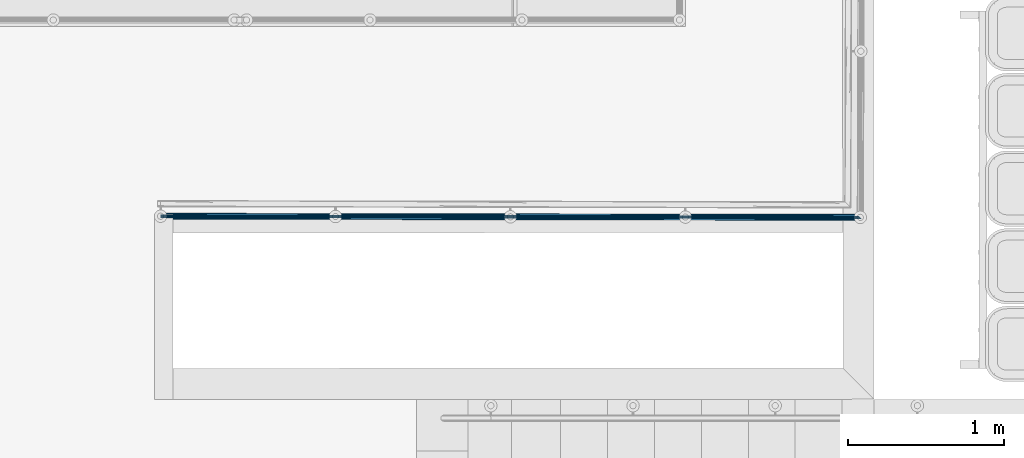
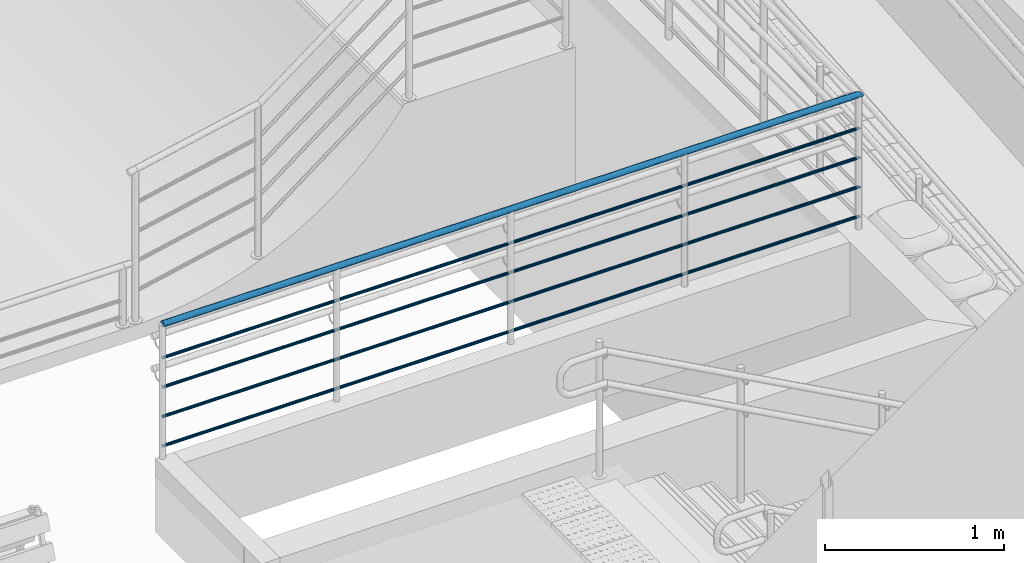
# One storey, part 40 of 237: 6 building element parts, 1 element without a shape of its own.
"""IFC2X3 building model written with IfcOpenShell, lengths in millimetres."""

import ifcopenshell
import ifcopenshell.guid

model = None  # the IFC model being written
_history = None  # IfcOwnerHistory: only IFC2X3 demands one
_inside = {}  # id of a spatial element -> (the spatial element, [elements in it])
_under = {}  # id of a project, library or spatial element -> (it, [spatial elements below it])
_declared = {}  # id of a project -> (the project, [libraries it declares])
_typed = {}  # id of a type object -> (the type object, [elements of that type])
_made_of = {}  # id of a material, layer set ... -> (it, [elements and type objects made of it])


def new_model(schema):
    """Start an empty IFC model of exactly this schema.

    Asked for "IFC4X3", IfcOpenShell would pick the latest addendum, in which some entities
    have other attributes; the version numbers below select the first issue.
    IFC2X3 requires an IfcOwnerHistory on every rooted entity: one is made here for all.
    """
    global model, _history
    if schema == "IFC4X3":
        model = ifcopenshell.file(schema_version=(4, 3, 0, 0))
    else:
        model = ifcopenshell.file(schema=schema)
    _inside.clear()
    _under.clear()
    _declared.clear()
    _typed.clear()
    _made_of.clear()
    _history = None
    if model.schema == "IFC2X3":
        org = make("IfcOrganization", Name="unknown")
        user = make(
            "IfcPersonAndOrganization",
            ThePerson=make("IfcPerson", FamilyName="unknown"),
            TheOrganization=org,
        )
        app = make(
            "IfcApplication",
            ApplicationDeveloper=org,
            Version="unknown",
            ApplicationFullName="unknown",
            ApplicationIdentifier="unknown",
        )
        _history = make(
            "IfcOwnerHistory",
            OwningUser=user,
            OwningApplication=app,
            ChangeAction="ADDED",
            CreationDate=0,
        )
    return model


def make(cls, **values):
    """One entity of the class cls with the attributes given. An attribute that is None is left unset."""
    return model.create_entity(
        cls, **{name: value for name, value in values.items() if value is not None}
    )


def entity(cls, *values):
    """Any entity or typed value of the class cls, its attributes in the order of the schema. None: left unset."""
    e = model.create_entity(cls)
    for i, value in enumerate(values):
        if value is not None:
            e[i] = value
    return e


def rooted(cls, **values):
    """An entity with a GlobalId (a new one), such as an element, a storey or a relation."""
    return make(cls, GlobalId=ifcopenshell.guid.new(), OwnerHistory=_history, **values)


def si_unit(unit_type, name, prefix=None):
    """IfcSIUnit, for example si_unit("LENGTHUNIT", "METRE", prefix="MILLI")."""
    return make("IfcSIUnit", UnitType=unit_type, Prefix=prefix, Name=name)


def converted_unit(unit_type, name, factor, base, dimensions=None, offset=None):
    """IfcConversionBasedUnit, such as the inch: factor (a typed value) times the base unit."""
    return make(
        "IfcConversionBasedUnit"
        if offset is None
        else "IfcConversionBasedUnitWithOffset",
        ConversionOffset=offset,
        Dimensions=None
        if dimensions is None
        else entity("IfcDimensionalExponents", *dimensions),
        UnitType=unit_type,
        Name=name,
        ConversionFactor=make(
            "IfcMeasureWithUnit", ValueComponent=factor, UnitComponent=base
        ),
    )


def derived_unit(unit_type, elements):
    """IfcDerivedUnit: a product of units, each with its exponent."""
    return make(
        "IfcDerivedUnit",
        Elements=[
            make("IfcDerivedUnitElement", Unit=unit, Exponent=power)
            for unit, power in elements
        ],
        UnitType=unit_type,
    )


def money_unit(currency):
    """IfcMonetaryUnit."""
    return make("IfcMonetaryUnit", Currency=currency)


def assignment(units):
    """IfcUnitAssignment: the units of a project."""
    return None if units is None else make("IfcUnitAssignment", Units=units)


def point(xyz):
    """IfcCartesianPoint."""
    return None if xyz is None else make("IfcCartesianPoint", Coordinates=xyz)


def direction(xyz):
    """IfcDirection."""
    return None if xyz is None else make("IfcDirection", DirectionRatios=xyz)


def frame(location, z_axis=None, x_axis=None):
    """IfcAxis2Placement3D, a coordinate frame: its origin and axes. An axis left out is left unset."""
    return make(
        "IfcAxis2Placement3D",
        Location=point(location),
        Axis=direction(z_axis),
        RefDirection=direction(x_axis),
    )


def origin_with_axes():
    """The frame at (0, 0, 0) with the z axis (0, 0, 1) and the x axis (1, 0, 0) written out."""
    return frame((0.0, 0.0, 0.0), z_axis=(0.0, 0.0, 1.0), x_axis=(1.0, 0.0, 0.0))


def place(relative_to, where):
    """IfcLocalPlacement: puts the frame where relative to a parent placement (None: the world)."""
    return make(
        "IfcLocalPlacement", PlacementRelTo=relative_to, RelativePlacement=where
    )


def context(
    kind, dimensions, precision=None, world=None, true_north=None, identifier=None
):
    """IfcGeometricRepresentationContext, for example the 3D "Model" context."""
    return make(
        "IfcGeometricRepresentationContext",
        ContextIdentifier=identifier,
        ContextType=kind,
        CoordinateSpaceDimension=dimensions,
        Precision=precision,
        WorldCoordinateSystem=world,
        TrueNorth=true_north,
    )


def subcontext(parent, identifier, kind, view, scale=None):
    """IfcGeometricRepresentationSubContext, for example "Body" below "Model"."""
    return make(
        "IfcGeometricRepresentationSubContext",
        ContextIdentifier=identifier,
        ContextType=kind,
        ParentContext=parent,
        TargetScale=scale,
        TargetView=view,
    )


def project(units=None, contexts=None):
    """IfcProject with its units and contexts."""
    return rooted(
        "IfcProject",
        Name="project",
        RepresentationContexts=contexts,
        UnitsInContext=assignment(units),
    )


def spatial(cls, under=None, at=None, **own):
    """A site, building, storey or space (cls), placed at a placement, below another one or the project."""
    s = rooted(cls, ObjectPlacement=at, **own)
    if under is not None:
        _under.setdefault(under.id(), (under, []))[1].append(s)
    return s


def faces_of(points, faces, orient=None, outer=None):
    """IfcFace entities. A face is a list of loops; a loop is a list of indices into points, from 0.

    orient and outer hold one flag for each loop. By default every Orientation is true, the
    first loop of a face is its IfcFaceOuterBound and the others are IfcFaceBound.
    """
    made = []
    for i, loops in enumerate(faces):
        bounds = []
        for j, loop in enumerate(loops):
            is_outer = j == 0 if outer is None else outer[i][j]
            bounds.append(
                make(
                    "IfcFaceOuterBound" if is_outer else "IfcFaceBound",
                    Bound=make("IfcPolyLoop", Polygon=[points[k] for k in loop]),
                    Orientation=True if orient is None else orient[i][j],
                )
            )
        made.append(make("IfcFace", Bounds=bounds))
    return made


def faceted_brep(points, faces, orient=None, outer=None, voids=None):
    """IfcFacetedBrep: a solid bounded by flat faces; with voids (closed shells), ...WithVoids."""
    shared = [point(p) for p in points]
    hull = make("IfcClosedShell", CfsFaces=faces_of(shared, faces, orient, outer))
    if voids is None:
        return make("IfcFacetedBrep", Outer=hull)
    return make(
        "IfcFacetedBrepWithVoids",
        Outer=hull,
        Voids=[
            make(cls, CfsFaces=faces_of(shared, fs, o, b)) for cls, fs, o, b in voids
        ],
    )


def shape(context_of_items, identifier, shape_type, items):
    """IfcShapeRepresentation: the items that make up one representation, for example the "Body"."""
    return make(
        "IfcShapeRepresentation",
        ContextOfItems=context_of_items,
        RepresentationIdentifier=identifier,
        RepresentationType=shape_type,
        Items=items,
    )


def material(Name=None, Category=None):
    """IfcMaterial."""
    return make("IfcMaterial", Name=Name, Category=Category)


def made_of(thing, what):
    """Note that an element or type object is made of a material, layer set ...; save() writes the relation."""
    if what is not None:
        _made_of.setdefault(what.id(), (what, []))[1].append(thing)
    return thing


def type_object(cls, material=None, **own):
    """A type object (cls), such as IfcWallType, which elements share."""
    return made_of(rooted(cls, **own), material)


def element(
    cls,
    number,
    at=None,
    inside=None,
    cuts=None,
    type_object=None,
    material=None,
    context=None,
    identifier="Body",
    shape_type=None,
    held_by="IfcProductDefinitionShape",
    body=None,
    shapes=None,
    **own,
):
    """One element of the class cls, such as IfcWall. Its Tag is "e" and its number.

    at: its placement. inside: the storey or other place that contains it. cuts: it is an
    opening in that element (IfcRelVoidsElement). A single representation is given by context,
    identifier, shape_type and body (its items); several are given by shapes. held_by: the class
    of the entity that holds the representations. save() writes the other relations.
    """
    e = rooted(cls, Tag="e%d" % number, ObjectPlacement=at, **own)
    if body is not None:
        shapes = [shape(context, identifier, shape_type, body)]
    if shapes is not None:
        e.Representation = make(held_by, Representations=shapes)
    if inside is not None:
        _inside.setdefault(inside.id(), (inside, []))[1].append(e)
    if cuts is not None:
        rooted(
            "IfcRelVoidsElement", RelatingBuildingElement=cuts, RelatedOpeningElement=e
        )
    if type_object is not None:
        _typed.setdefault(type_object.id(), (type_object, []))[1].append(e)
    return made_of(e, material)


def aggregate(whole, parts):
    """IfcRelAggregates: a whole, such as a stair, and the parts it consists of."""
    return rooted("IfcRelAggregates", RelatingObject=whole, RelatedObjects=parts)


def save(model, path):
    """Write the relations noted so far, then the file.

    IfcRelAggregates (storeys below a building ...), IfcRelContainedInSpatialStructure (elements
    in a storey), IfcRelDefinesByType, IfcRelAssociatesMaterial and IfcRelDeclares: one each for
    every whole, place, type object, material and project.
    """
    for whole, parts in _under.values():
        aggregate(whole, parts)
    for where, things in _inside.values():
        rooted(
            "IfcRelContainedInSpatialStructure",
            RelatedElements=things,
            RelatingStructure=where,
        )
    for kind, things in _typed.values():
        rooted("IfcRelDefinesByType", RelatedObjects=things, RelatingType=kind)
    for what, things in _made_of.values():
        rooted("IfcRelAssociatesMaterial", RelatedObjects=things, RelatingMaterial=what)
    for by, libraries in _declared.values():
        rooted("IfcRelDeclares", RelatingContext=by, RelatedDefinitions=libraries)
    model.write(path)


model = new_model("IFC2X3")

# Units and contexts
model_context = context("Model", 3, precision=0.01, world=origin_with_axes(), true_north=direction((0.0, 1.0)))
body_context = subcontext(model_context, "Body", "Model", "MODEL_VIEW")
ifc_project = project(units=[si_unit("LENGTHUNIT", "METRE", prefix="MILLI"), si_unit("AREAUNIT", "SQUARE_METRE"), si_unit("VOLUMEUNIT", "CUBIC_METRE"), converted_unit("PLANEANGLEUNIT", "DEGREE", entity("IfcPlaneAngleMeasure", 0.0174532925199), si_unit("PLANEANGLEUNIT", "RADIAN"), dimensions=[0, 0, 0, 0, 0, 0, 0]), money_unit("USD"), converted_unit("TIMEUNIT", "Year", entity("IfcTimeMeasure", 31556926.0), si_unit("TIMEUNIT", "SECOND"), dimensions=[0, 0, 1, 0, 0, 0, 0]), si_unit("MASSUNIT", "GRAM", prefix="KILO"), si_unit("THERMODYNAMICTEMPERATUREUNIT", "DEGREE_CELSIUS"), si_unit("LUMINOUSINTENSITYUNIT", "LUMEN"), si_unit("ENERGYUNIT", "JOULE", prefix="MEGA"), derived_unit("THERMALCONDUCTANCEUNIT", [(si_unit("POWERUNIT", "WATT"), 1), (si_unit("LENGTHUNIT", "METRE"), -1), (si_unit("THERMODYNAMICTEMPERATUREUNIT", "KELVIN"), -1)]), derived_unit("SPECIFICHEATCAPACITYUNIT", [(si_unit("ENERGYUNIT", "JOULE"), 1), (si_unit("MASSUNIT", "GRAM", prefix="KILO"), -1), (si_unit("THERMODYNAMICTEMPERATUREUNIT", "KELVIN"), -1)]), derived_unit("MASSDENSITYUNIT", [(si_unit("MASSUNIT", "GRAM", prefix="KILO"), 1), (si_unit("VOLUMEUNIT", "CUBIC_METRE"), -1)])], contexts=[model_context])

# Site, building, storey
site_placement = place(None, origin_with_axes())
site = spatial("IfcSite", under=ifc_project, at=site_placement, Name="Local", CompositionType="ELEMENT")
building_placement = place(site_placement, origin_with_axes())
building = spatial("IfcBuilding", under=site, at=building_placement, Name="Construção", CompositionType="ELEMENT")
storey_placement = place(building_placement, origin_with_axes())
storey = spatial("IfcBuildingStorey", under=building, at=storey_placement, Name="Pavimento Térreo", CompositionType="ELEMENT", Elevation=0.0)

# Railing, building element parts
railing_type = type_object("IfcRailingType", Name="Tipo de Guarda-Corpo", PredefinedType="NOTDEFINED")
railing_placement = place(storey_placement, frame((70326.6870103, 28675.2458388, -1357.10819655), z_axis=(0.0, 0.0, 1.0), x_axis=(1.0, 0.0, 0.0)))
railing = element("IfcRailing", 1, at=railing_placement, inside=storey, type_object=railing_type, Name="Guarda-Corpo - 004", PredefinedType="NOTDEFINED")
ifc_material = material(Name="Aço - Inoxidável")
building_element_part_1_placement = place(railing_placement, origin_with_axes())
building_element_part_1 = element("IfcBuildingElementPart", 2, at=building_element_part_1_placement, material=ifc_material, Name="Aço - Inoxidável", context=body_context, shape_type="Brep", body=[
    faceted_brep([(-9224.29842374, -1825.53725213, 1030.0), (-9224.29890889, -1825.84109668, 1033.47296355), (-4766.9802013, -1832.95806863, 1033.47296355), (-4767.28313638, -1832.65373961, 1030.0), (-9224.29890889, -1825.84109668, 1026.52703645), (-9224.30034958, -1826.74339818, 1023.15959713), (-9224.30270206, -1828.21674064, 1020.0), (-9224.30589484, -1830.2163573, 1017.14424781), (-9224.3098309, -1832.68149083, 1014.67911114), (-9224.31439065, -1835.53723938, 1012.67949192), (-9224.31943556, -1838.69683249, 1011.20614758), (-9224.32481232, -1842.06426751, 1010.30384494), (-9224.33035757, -1845.53722664, 1010.0), (-9224.33590282, -1849.01018576, 1010.30384494), (-9224.34127958, -1852.37762078, 1011.20614758), (-9224.34632448, -1855.53721389, 1012.67949192), (-9224.35088424, -1858.39296244, 1014.67911114), (-9224.3548203, -1860.85809597, 1017.14424781), (-9224.35801308, -1862.85771263, 1020.0), (-9224.36036555, -1864.33105509, 1023.15959713), (-9224.36180625, -1865.23335659, 1026.52703645), (-9224.3622914, -1865.53720114, 1030.0), (-9224.36180625, -1865.23335659, 1033.47296355), (-9224.36036555, -1864.33105509, 1036.84040287), (-9224.35801308, -1862.85771263, 1040.0), (-9224.3548203, -1860.85809597, 1042.85575219), (-9224.35088424, -1858.39296244, 1045.32088886), (-9224.34632448, -1855.53721389, 1047.32050808), (-9224.34127958, -1852.37762078, 1048.79385242), (-9224.33590282, -1849.01018576, 1049.69615506), (-9224.33035757, -1845.53722664, 1050.0), (-9224.32481232, -1842.06426751, 1049.69615506), (-9224.31943556, -1838.69683249, 1048.79385242), (-9224.31439065, -1835.53723938, 1047.32050808), (-9224.3098309, -1832.68149083, 1045.32088886), (-9224.30589484, -1830.2163573, 1042.85575219), (-9224.30270206, -1828.21674064, 1040.0), (-9224.30034958, -1826.74339818, 1036.84040287), (-4766.0806006, -1833.86180881, 1036.84040287), (-4764.61166818, -1835.33750046, 1040.0), (-4762.61803682, -1837.34030544, 1042.85575219), (-4760.16028199, -1839.80936953, 1045.32088886), (-4757.31308134, -1842.66967148, 1047.32050808), (-4754.16294561, -1845.83430244, 1048.79385242), (-4750.80559008, -1849.20710671, 1049.69615506), (-4747.3430263, -1852.68560335, 1050.0), (-4743.88046252, -1856.16409998, 1049.69615506), (-4740.523107, -1859.53690425, 1048.79385242), (-4737.37297126, -1862.70153521, 1047.32050808), (-4734.52577061, -1865.56183716, 1045.32088886), (-4732.06801578, -1868.03090125, 1042.85575219), (-4730.07438442, -1870.03370623, 1040.0), (-4728.60545201, -1871.50939788, 1036.84040287), (-4727.7058513, -1872.41313806, 1033.47296355), (-4727.40291623, -1872.71746708, 1030.0), (-4727.7058513, -1872.41313806, 1026.52703645), (-4728.60545201, -1871.50939788, 1023.15959713), (-4730.07438442, -1870.03370623, 1020.0), (-4732.06801578, -1868.03090125, 1017.14424781), (-4734.52577061, -1865.56183716, 1014.67911114), (-4737.37297126, -1862.70153521, 1012.67949192), (-4740.523107, -1859.53690425, 1011.20614758), (-4743.88046252, -1856.16409998, 1010.30384494), (-4747.3430263, -1852.68560335, 1010.0), (-4750.80559008, -1849.20710671, 1010.30384494), (-4754.16294561, -1845.83430244, 1011.20614758), (-4757.31308134, -1842.66967148, 1012.67949192), (-4760.16028199, -1839.80936953, 1014.67911114), (-4762.61803682, -1837.34030544, 1017.14424781), (-4764.61166818, -1835.33750046, 1020.0), (-4766.0806006, -1833.86180881, 1023.15959713), (-4766.9802013, -1832.95806863, 1026.52703645)], [[[0, 1, 2, 3]], [[0, 4, 5, 6, 7, 8, 9, 10, 11, 12, 13, 14, 15, 16, 17, 18, 19, 20, 21, 22, 23, 24, 25, 26, 27, 28, 29, 30, 31, 32, 33, 34, 35, 36, 37, 1]], [[1, 37, 38, 2]], [[3, 2, 38, 39, 40, 41, 42, 43, 44, 45, 46, 47, 48, 49, 50, 51, 52, 53, 54, 55, 56, 57, 58, 59, 60, 61, 62, 63, 64, 65, 66, 67, 68, 69, 70, 71]], [[4, 0, 3, 71]], [[5, 4, 71, 70]], [[6, 5, 70, 69]], [[7, 6, 69, 68]], [[8, 7, 68, 67]], [[9, 8, 67, 66]], [[10, 9, 66, 65]], [[11, 10, 65, 64]], [[12, 11, 64, 63]], [[13, 12, 63, 62]], [[14, 13, 62, 61]], [[15, 14, 61, 60]], [[16, 15, 60, 59]], [[17, 16, 59, 58]], [[18, 17, 58, 57]], [[19, 18, 57, 56]], [[20, 19, 56, 55]], [[21, 20, 55, 54]], [[22, 21, 54, 53]], [[23, 22, 53, 52]], [[24, 23, 52, 51]], [[25, 24, 51, 50]], [[26, 25, 50, 49]], [[27, 26, 49, 48]], [[28, 27, 48, 47]], [[29, 28, 47, 46]], [[30, 29, 46, 45]], [[31, 30, 45, 44]], [[32, 31, 44, 43]], [[33, 32, 43, 42]], [[34, 33, 42, 41]], [[35, 34, 41, 40]], [[36, 35, 40, 39]], [[37, 36, 39, 38]]]),
])
building_element_part_2_placement = place(railing_placement, origin_with_axes())
building_element_part_2 = element("IfcBuildingElementPart", 3, at=building_element_part_2_placement, material=ifc_material, Name="Aço - Inoxidável", context=body_context, shape_type="Brep", body=[
    faceted_brep([(-9224.31439065, -1835.53723938, 200.0), (-9224.31463323, -1835.68916166, 201.736481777), (-4757.1616138, -1842.82183599, 201.736481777), (-4757.31308134, -1842.66967148, 200.0), (-9224.31463323, -1835.68916166, 198.263518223), (-9224.31535358, -1836.14031241, 196.579798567), (-9224.31652982, -1836.87698364, 195.0), (-9224.3181262, -1837.87679197, 193.572123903), (-9224.32009423, -1839.10935873, 192.339555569), (-9224.32237411, -1840.53723301, 191.339745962), (-9224.32489656, -1842.11702956, 190.603073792), (-9224.32758494, -1843.80074707, 190.15192247), (-9224.33035757, -1845.53722664, 190.0), (-9224.33313019, -1847.2737062, 190.15192247), (-9224.33581858, -1848.95742371, 190.603073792), (-9224.33834103, -1850.53722026, 191.339745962), (-9224.3406209, -1851.96509454, 192.339555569), (-9224.34258894, -1853.1976613, 193.572123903), (-9224.34418532, -1854.19746963, 195.0), (-9224.34536156, -1854.93414087, 196.579798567), (-9224.34608191, -1855.38529161, 198.263518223), (-9224.34632448, -1855.53721389, 200.0), (-9224.34608191, -1855.38529161, 201.736481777), (-9224.34536156, -1854.93414087, 203.420201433), (-9224.34418532, -1854.19746963, 205.0), (-9224.34258894, -1853.1976613, 206.427876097), (-9224.3406209, -1851.96509454, 207.660444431), (-9224.33834103, -1850.53722026, 208.660254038), (-9224.33581858, -1848.95742371, 209.396926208), (-9224.33313019, -1847.2737062, 209.84807753), (-9224.33035757, -1845.53722664, 210.0), (-9224.32758494, -1843.80074707, 209.84807753), (-9224.32489656, -1842.11702956, 209.396926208), (-9224.32237411, -1840.53723301, 208.660254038), (-9224.32009423, -1839.10935873, 207.660444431), (-9224.3181262, -1837.87679197, 206.427876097), (-9224.31652982, -1836.87698364, 205.0), (-9224.31535358, -1836.14031241, 203.420201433), (-4756.71181345, -1843.27370608, 203.420201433), (-4755.97734724, -1844.0115519, 205.0), (-4754.98053156, -1845.01295439, 206.427876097), (-4753.75165415, -1846.24748644, 207.660444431), (-4752.32805382, -1847.67763741, 208.660254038), (-4750.75298595, -1849.25995289, 209.396926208), (-4749.07430819, -1850.94635503, 209.84807753), (-4747.3430263, -1852.68560335, 210.0), (-4745.61174441, -1854.42485166, 209.84807753), (-4743.93306665, -1856.1112538, 209.396926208), (-4742.35799878, -1857.69356928, 208.660254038), (-4740.93439846, -1859.12372025, 207.660444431), (-4739.70552104, -1860.3582523, 206.427876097), (-4738.70870536, -1861.35965479, 205.0), (-4737.97423915, -1862.09750061, 203.420201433), (-4737.5244388, -1862.5493707, 201.736481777), (-4737.37297126, -1862.70153521, 200.0), (-4737.5244388, -1862.5493707, 198.263518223), (-4737.97423915, -1862.09750061, 196.579798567), (-4738.70870536, -1861.35965479, 195.0), (-4739.70552104, -1860.3582523, 193.572123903), (-4740.93439846, -1859.12372025, 192.339555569), (-4742.35799878, -1857.69356928, 191.339745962), (-4743.93306665, -1856.1112538, 190.603073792), (-4745.61174441, -1854.42485166, 190.15192247), (-4747.3430263, -1852.68560335, 190.0), (-4749.07430819, -1850.94635503, 190.15192247), (-4750.75298595, -1849.25995289, 190.603073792), (-4752.32805382, -1847.67763741, 191.339745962), (-4753.75165415, -1846.24748644, 192.339555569), (-4754.98053156, -1845.01295439, 193.572123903), (-4755.97734724, -1844.0115519, 195.0), (-4756.71181345, -1843.27370608, 196.579798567), (-4757.1616138, -1842.82183599, 198.263518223)], [[[0, 1, 2, 3]], [[0, 4, 5, 6, 7, 8, 9, 10, 11, 12, 13, 14, 15, 16, 17, 18, 19, 20, 21, 22, 23, 24, 25, 26, 27, 28, 29, 30, 31, 32, 33, 34, 35, 36, 37, 1]], [[1, 37, 38, 2]], [[3, 2, 38, 39, 40, 41, 42, 43, 44, 45, 46, 47, 48, 49, 50, 51, 52, 53, 54, 55, 56, 57, 58, 59, 60, 61, 62, 63, 64, 65, 66, 67, 68, 69, 70, 71]], [[4, 0, 3, 71]], [[5, 4, 71, 70]], [[6, 5, 70, 69]], [[7, 6, 69, 68]], [[8, 7, 68, 67]], [[9, 8, 67, 66]], [[10, 9, 66, 65]], [[11, 10, 65, 64]], [[12, 11, 64, 63]], [[13, 12, 63, 62]], [[14, 13, 62, 61]], [[15, 14, 61, 60]], [[16, 15, 60, 59]], [[17, 16, 59, 58]], [[18, 17, 58, 57]], [[19, 18, 57, 56]], [[20, 19, 56, 55]], [[21, 20, 55, 54]], [[22, 21, 54, 53]], [[23, 22, 53, 52]], [[24, 23, 52, 51]], [[25, 24, 51, 50]], [[26, 25, 50, 49]], [[27, 26, 49, 48]], [[28, 27, 48, 47]], [[29, 28, 47, 46]], [[30, 29, 46, 45]], [[31, 30, 45, 44]], [[32, 31, 44, 43]], [[33, 32, 43, 42]], [[34, 33, 42, 41]], [[35, 34, 41, 40]], [[36, 35, 40, 39]], [[37, 36, 39, 38]]]),
])
building_element_part_3_placement = place(railing_placement, origin_with_axes())
building_element_part_3 = element("IfcBuildingElementPart", 4, at=building_element_part_3_placement, material=ifc_material, Name="Aço - Inoxidável", context=body_context, shape_type="Brep", body=[
    faceted_brep([(-9224.31439065, -1835.53723938, 400.0), (-9224.31463323, -1835.68916166, 401.736481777), (-4757.1616138, -1842.82183599, 401.736481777), (-4757.31308134, -1842.66967148, 400.0), (-9224.31463323, -1835.68916166, 398.263518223), (-9224.31535358, -1836.14031241, 396.579798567), (-9224.31652982, -1836.87698364, 395.0), (-9224.3181262, -1837.87679197, 393.572123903), (-9224.32009423, -1839.10935873, 392.339555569), (-9224.32237411, -1840.53723301, 391.339745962), (-9224.32489656, -1842.11702956, 390.603073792), (-9224.32758494, -1843.80074707, 390.15192247), (-9224.33035757, -1845.53722664, 390.0), (-9224.33313019, -1847.2737062, 390.15192247), (-9224.33581858, -1848.95742371, 390.603073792), (-9224.33834103, -1850.53722026, 391.339745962), (-9224.3406209, -1851.96509454, 392.339555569), (-9224.34258894, -1853.1976613, 393.572123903), (-9224.34418532, -1854.19746963, 395.0), (-9224.34536156, -1854.93414087, 396.579798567), (-9224.34608191, -1855.38529161, 398.263518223), (-9224.34632448, -1855.53721389, 400.0), (-9224.34608191, -1855.38529161, 401.736481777), (-9224.34536156, -1854.93414087, 403.420201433), (-9224.34418532, -1854.19746963, 405.0), (-9224.34258894, -1853.1976613, 406.427876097), (-9224.3406209, -1851.96509454, 407.660444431), (-9224.33834103, -1850.53722026, 408.660254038), (-9224.33581858, -1848.95742371, 409.396926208), (-9224.33313019, -1847.2737062, 409.84807753), (-9224.33035757, -1845.53722664, 410.0), (-9224.32758494, -1843.80074707, 409.84807753), (-9224.32489656, -1842.11702956, 409.396926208), (-9224.32237411, -1840.53723301, 408.660254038), (-9224.32009423, -1839.10935873, 407.660444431), (-9224.3181262, -1837.87679197, 406.427876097), (-9224.31652982, -1836.87698364, 405.0), (-9224.31535358, -1836.14031241, 403.420201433), (-4756.71181345, -1843.27370608, 403.420201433), (-4755.97734724, -1844.0115519, 405.0), (-4754.98053156, -1845.01295439, 406.427876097), (-4753.75165415, -1846.24748644, 407.660444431), (-4752.32805382, -1847.67763741, 408.660254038), (-4750.75298595, -1849.25995289, 409.396926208), (-4749.07430819, -1850.94635503, 409.84807753), (-4747.3430263, -1852.68560335, 410.0), (-4745.61174441, -1854.42485166, 409.84807753), (-4743.93306665, -1856.1112538, 409.396926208), (-4742.35799878, -1857.69356928, 408.660254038), (-4740.93439846, -1859.12372025, 407.660444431), (-4739.70552104, -1860.3582523, 406.427876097), (-4738.70870536, -1861.35965479, 405.0), (-4737.97423915, -1862.09750061, 403.420201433), (-4737.5244388, -1862.5493707, 401.736481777), (-4737.37297126, -1862.70153521, 400.0), (-4737.5244388, -1862.5493707, 398.263518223), (-4737.97423915, -1862.09750061, 396.579798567), (-4738.70870536, -1861.35965479, 395.0), (-4739.70552104, -1860.3582523, 393.572123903), (-4740.93439846, -1859.12372025, 392.339555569), (-4742.35799878, -1857.69356928, 391.339745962), (-4743.93306665, -1856.1112538, 390.603073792), (-4745.61174441, -1854.42485166, 390.15192247), (-4747.3430263, -1852.68560335, 390.0), (-4749.07430819, -1850.94635503, 390.15192247), (-4750.75298595, -1849.25995289, 390.603073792), (-4752.32805382, -1847.67763741, 391.339745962), (-4753.75165415, -1846.24748644, 392.339555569), (-4754.98053156, -1845.01295439, 393.572123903), (-4755.97734724, -1844.0115519, 395.0), (-4756.71181345, -1843.27370608, 396.579798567), (-4757.1616138, -1842.82183599, 398.263518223)], [[[0, 1, 2, 3]], [[0, 4, 5, 6, 7, 8, 9, 10, 11, 12, 13, 14, 15, 16, 17, 18, 19, 20, 21, 22, 23, 24, 25, 26, 27, 28, 29, 30, 31, 32, 33, 34, 35, 36, 37, 1]], [[1, 37, 38, 2]], [[3, 2, 38, 39, 40, 41, 42, 43, 44, 45, 46, 47, 48, 49, 50, 51, 52, 53, 54, 55, 56, 57, 58, 59, 60, 61, 62, 63, 64, 65, 66, 67, 68, 69, 70, 71]], [[4, 0, 3, 71]], [[5, 4, 71, 70]], [[6, 5, 70, 69]], [[7, 6, 69, 68]], [[8, 7, 68, 67]], [[9, 8, 67, 66]], [[10, 9, 66, 65]], [[11, 10, 65, 64]], [[12, 11, 64, 63]], [[13, 12, 63, 62]], [[14, 13, 62, 61]], [[15, 14, 61, 60]], [[16, 15, 60, 59]], [[17, 16, 59, 58]], [[18, 17, 58, 57]], [[19, 18, 57, 56]], [[20, 19, 56, 55]], [[21, 20, 55, 54]], [[22, 21, 54, 53]], [[23, 22, 53, 52]], [[24, 23, 52, 51]], [[25, 24, 51, 50]], [[26, 25, 50, 49]], [[27, 26, 49, 48]], [[28, 27, 48, 47]], [[29, 28, 47, 46]], [[30, 29, 46, 45]], [[31, 30, 45, 44]], [[32, 31, 44, 43]], [[33, 32, 43, 42]], [[34, 33, 42, 41]], [[35, 34, 41, 40]], [[36, 35, 40, 39]], [[37, 36, 39, 38]]]),
])
building_element_part_4_placement = place(railing_placement, origin_with_axes())
building_element_part_4 = element("IfcBuildingElementPart", 5, at=building_element_part_4_placement, material=ifc_material, Name="Aço - Inoxidável", context=body_context, shape_type="Brep", body=[
    faceted_brep([(-9224.31439065, -1835.53723938, 400.0), (-9224.31463323, -1835.68916166, 401.736481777), (-4757.1616138, -1842.82183599, 401.736481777), (-4757.31308134, -1842.66967148, 400.0), (-9224.31463323, -1835.68916166, 398.263518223), (-9224.31535358, -1836.14031241, 396.579798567), (-9224.31652982, -1836.87698364, 395.0), (-9224.3181262, -1837.87679197, 393.572123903), (-9224.32009423, -1839.10935873, 392.339555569), (-9224.32237411, -1840.53723301, 391.339745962), (-9224.32489656, -1842.11702956, 390.603073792), (-9224.32758494, -1843.80074707, 390.15192247), (-9224.33035757, -1845.53722664, 390.0), (-9224.33313019, -1847.2737062, 390.15192247), (-9224.33581858, -1848.95742371, 390.603073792), (-9224.33834103, -1850.53722026, 391.339745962), (-9224.3406209, -1851.96509454, 392.339555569), (-9224.34258894, -1853.1976613, 393.572123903), (-9224.34418532, -1854.19746963, 395.0), (-9224.34536156, -1854.93414087, 396.579798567), (-9224.34608191, -1855.38529161, 398.263518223), (-9224.34632448, -1855.53721389, 400.0), (-9224.34608191, -1855.38529161, 401.736481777), (-9224.34536156, -1854.93414087, 403.420201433), (-9224.34418532, -1854.19746963, 405.0), (-9224.34258894, -1853.1976613, 406.427876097), (-9224.3406209, -1851.96509454, 407.660444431), (-9224.33834103, -1850.53722026, 408.660254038), (-9224.33581858, -1848.95742371, 409.396926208), (-9224.33313019, -1847.2737062, 409.84807753), (-9224.33035757, -1845.53722664, 410.0), (-9224.32758494, -1843.80074707, 409.84807753), (-9224.32489656, -1842.11702956, 409.396926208), (-9224.32237411, -1840.53723301, 408.660254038), (-9224.32009423, -1839.10935873, 407.660444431), (-9224.3181262, -1837.87679197, 406.427876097), (-9224.31652982, -1836.87698364, 405.0), (-9224.31535358, -1836.14031241, 403.420201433), (-4756.71181345, -1843.27370608, 403.420201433), (-4755.97734724, -1844.0115519, 405.0), (-4754.98053156, -1845.01295439, 406.427876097), (-4753.75165415, -1846.24748644, 407.660444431), (-4752.32805382, -1847.67763741, 408.660254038), (-4750.75298595, -1849.25995289, 409.396926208), (-4749.07430819, -1850.94635503, 409.84807753), (-4747.3430263, -1852.68560335, 410.0), (-4745.61174441, -1854.42485166, 409.84807753), (-4743.93306665, -1856.1112538, 409.396926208), (-4742.35799878, -1857.69356928, 408.660254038), (-4740.93439846, -1859.12372025, 407.660444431), (-4739.70552104, -1860.3582523, 406.427876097), (-4738.70870536, -1861.35965479, 405.0), (-4737.97423915, -1862.09750061, 403.420201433), (-4737.5244388, -1862.5493707, 401.736481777), (-4737.37297126, -1862.70153521, 400.0), (-4737.5244388, -1862.5493707, 398.263518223), (-4737.97423915, -1862.09750061, 396.579798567), (-4738.70870536, -1861.35965479, 395.0), (-4739.70552104, -1860.3582523, 393.572123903), (-4740.93439846, -1859.12372025, 392.339555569), (-4742.35799878, -1857.69356928, 391.339745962), (-4743.93306665, -1856.1112538, 390.603073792), (-4745.61174441, -1854.42485166, 390.15192247), (-4747.3430263, -1852.68560335, 390.0), (-4749.07430819, -1850.94635503, 390.15192247), (-4750.75298595, -1849.25995289, 390.603073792), (-4752.32805382, -1847.67763741, 391.339745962), (-4753.75165415, -1846.24748644, 392.339555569), (-4754.98053156, -1845.01295439, 393.572123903), (-4755.97734724, -1844.0115519, 395.0), (-4756.71181345, -1843.27370608, 396.579798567), (-4757.1616138, -1842.82183599, 398.263518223)], [[[0, 1, 2, 3]], [[0, 4, 5, 6, 7, 8, 9, 10, 11, 12, 13, 14, 15, 16, 17, 18, 19, 20, 21, 22, 23, 24, 25, 26, 27, 28, 29, 30, 31, 32, 33, 34, 35, 36, 37, 1]], [[1, 37, 38, 2]], [[3, 2, 38, 39, 40, 41, 42, 43, 44, 45, 46, 47, 48, 49, 50, 51, 52, 53, 54, 55, 56, 57, 58, 59, 60, 61, 62, 63, 64, 65, 66, 67, 68, 69, 70, 71]], [[4, 0, 3, 71]], [[5, 4, 71, 70]], [[6, 5, 70, 69]], [[7, 6, 69, 68]], [[8, 7, 68, 67]], [[9, 8, 67, 66]], [[10, 9, 66, 65]], [[11, 10, 65, 64]], [[12, 11, 64, 63]], [[13, 12, 63, 62]], [[14, 13, 62, 61]], [[15, 14, 61, 60]], [[16, 15, 60, 59]], [[17, 16, 59, 58]], [[18, 17, 58, 57]], [[19, 18, 57, 56]], [[20, 19, 56, 55]], [[21, 20, 55, 54]], [[22, 21, 54, 53]], [[23, 22, 53, 52]], [[24, 23, 52, 51]], [[25, 24, 51, 50]], [[26, 25, 50, 49]], [[27, 26, 49, 48]], [[28, 27, 48, 47]], [[29, 28, 47, 46]], [[30, 29, 46, 45]], [[31, 30, 45, 44]], [[32, 31, 44, 43]], [[33, 32, 43, 42]], [[34, 33, 42, 41]], [[35, 34, 41, 40]], [[36, 35, 40, 39]], [[37, 36, 39, 38]]]),
])
building_element_part_5_placement = place(railing_placement, origin_with_axes())
building_element_part_5 = element("IfcBuildingElementPart", 6, at=building_element_part_5_placement, material=ifc_material, Name="Aço - Inoxidável", context=body_context, shape_type="Brep", body=[
    faceted_brep([(-9224.31439065, -1835.53723938, 600.0), (-9224.31463323, -1835.68916166, 601.736481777), (-4757.1616138, -1842.82183599, 601.736481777), (-4757.31308134, -1842.66967148, 600.0), (-9224.31463323, -1835.68916166, 598.263518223), (-9224.31535358, -1836.14031241, 596.579798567), (-9224.31652982, -1836.87698364, 595.0), (-9224.3181262, -1837.87679197, 593.572123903), (-9224.32009423, -1839.10935873, 592.339555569), (-9224.32237411, -1840.53723301, 591.339745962), (-9224.32489656, -1842.11702956, 590.603073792), (-9224.32758494, -1843.80074707, 590.15192247), (-9224.33035757, -1845.53722664, 590.0), (-9224.33313019, -1847.2737062, 590.15192247), (-9224.33581858, -1848.95742371, 590.603073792), (-9224.33834103, -1850.53722026, 591.339745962), (-9224.3406209, -1851.96509454, 592.339555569), (-9224.34258894, -1853.1976613, 593.572123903), (-9224.34418532, -1854.19746963, 595.0), (-9224.34536156, -1854.93414087, 596.579798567), (-9224.34608191, -1855.38529161, 598.263518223), (-9224.34632448, -1855.53721389, 600.0), (-9224.34608191, -1855.38529161, 601.736481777), (-9224.34536156, -1854.93414087, 603.420201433), (-9224.34418532, -1854.19746963, 605.0), (-9224.34258894, -1853.1976613, 606.427876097), (-9224.3406209, -1851.96509454, 607.660444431), (-9224.33834103, -1850.53722026, 608.660254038), (-9224.33581858, -1848.95742371, 609.396926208), (-9224.33313019, -1847.2737062, 609.84807753), (-9224.33035757, -1845.53722664, 610.0), (-9224.32758494, -1843.80074707, 609.84807753), (-9224.32489656, -1842.11702956, 609.396926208), (-9224.32237411, -1840.53723301, 608.660254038), (-9224.32009423, -1839.10935873, 607.660444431), (-9224.3181262, -1837.87679197, 606.427876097), (-9224.31652982, -1836.87698364, 605.0), (-9224.31535358, -1836.14031241, 603.420201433), (-4756.71181345, -1843.27370608, 603.420201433), (-4755.97734724, -1844.0115519, 605.0), (-4754.98053156, -1845.01295439, 606.427876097), (-4753.75165415, -1846.24748644, 607.660444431), (-4752.32805382, -1847.67763741, 608.660254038), (-4750.75298595, -1849.25995289, 609.396926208), (-4749.07430819, -1850.94635503, 609.84807753), (-4747.3430263, -1852.68560335, 610.0), (-4745.61174441, -1854.42485166, 609.84807753), (-4743.93306665, -1856.1112538, 609.396926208), (-4742.35799878, -1857.69356928, 608.660254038), (-4740.93439846, -1859.12372025, 607.660444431), (-4739.70552104, -1860.3582523, 606.427876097), (-4738.70870536, -1861.35965479, 605.0), (-4737.97423915, -1862.09750061, 603.420201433), (-4737.5244388, -1862.5493707, 601.736481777), (-4737.37297126, -1862.70153521, 600.0), (-4737.5244388, -1862.5493707, 598.263518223), (-4737.97423915, -1862.09750061, 596.579798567), (-4738.70870536, -1861.35965479, 595.0), (-4739.70552104, -1860.3582523, 593.572123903), (-4740.93439846, -1859.12372025, 592.339555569), (-4742.35799878, -1857.69356928, 591.339745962), (-4743.93306665, -1856.1112538, 590.603073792), (-4745.61174441, -1854.42485166, 590.15192247), (-4747.3430263, -1852.68560335, 590.0), (-4749.07430819, -1850.94635503, 590.15192247), (-4750.75298595, -1849.25995289, 590.603073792), (-4752.32805382, -1847.67763741, 591.339745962), (-4753.75165415, -1846.24748644, 592.339555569), (-4754.98053156, -1845.01295439, 593.572123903), (-4755.97734724, -1844.0115519, 595.0), (-4756.71181345, -1843.27370608, 596.579798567), (-4757.1616138, -1842.82183599, 598.263518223)], [[[0, 1, 2, 3]], [[0, 4, 5, 6, 7, 8, 9, 10, 11, 12, 13, 14, 15, 16, 17, 18, 19, 20, 21, 22, 23, 24, 25, 26, 27, 28, 29, 30, 31, 32, 33, 34, 35, 36, 37, 1]], [[1, 37, 38, 2]], [[3, 2, 38, 39, 40, 41, 42, 43, 44, 45, 46, 47, 48, 49, 50, 51, 52, 53, 54, 55, 56, 57, 58, 59, 60, 61, 62, 63, 64, 65, 66, 67, 68, 69, 70, 71]], [[4, 0, 3, 71]], [[5, 4, 71, 70]], [[6, 5, 70, 69]], [[7, 6, 69, 68]], [[8, 7, 68, 67]], [[9, 8, 67, 66]], [[10, 9, 66, 65]], [[11, 10, 65, 64]], [[12, 11, 64, 63]], [[13, 12, 63, 62]], [[14, 13, 62, 61]], [[15, 14, 61, 60]], [[16, 15, 60, 59]], [[17, 16, 59, 58]], [[18, 17, 58, 57]], [[19, 18, 57, 56]], [[20, 19, 56, 55]], [[21, 20, 55, 54]], [[22, 21, 54, 53]], [[23, 22, 53, 52]], [[24, 23, 52, 51]], [[25, 24, 51, 50]], [[26, 25, 50, 49]], [[27, 26, 49, 48]], [[28, 27, 48, 47]], [[29, 28, 47, 46]], [[30, 29, 46, 45]], [[31, 30, 45, 44]], [[32, 31, 44, 43]], [[33, 32, 43, 42]], [[34, 33, 42, 41]], [[35, 34, 41, 40]], [[36, 35, 40, 39]], [[37, 36, 39, 38]]]),
])
building_element_part_6_placement = place(railing_placement, origin_with_axes())
building_element_part_6 = element("IfcBuildingElementPart", 7, at=building_element_part_6_placement, material=ifc_material, Name="Aço - Inoxidável", context=body_context, shape_type="Brep", body=[
    faceted_brep([(-9224.31439065, -1835.53723938, 800.0), (-9224.31463323, -1835.68916166, 801.736481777), (-4757.1616138, -1842.82183599, 801.736481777), (-4757.31308134, -1842.66967148, 800.0), (-9224.31463323, -1835.68916166, 798.263518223), (-9224.31535358, -1836.14031241, 796.579798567), (-9224.31652982, -1836.87698364, 795.0), (-9224.3181262, -1837.87679197, 793.572123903), (-9224.32009423, -1839.10935873, 792.339555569), (-9224.32237411, -1840.53723301, 791.339745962), (-9224.32489656, -1842.11702956, 790.603073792), (-9224.32758494, -1843.80074707, 790.15192247), (-9224.33035757, -1845.53722664, 790.0), (-9224.33313019, -1847.2737062, 790.15192247), (-9224.33581858, -1848.95742371, 790.603073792), (-9224.33834103, -1850.53722026, 791.339745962), (-9224.3406209, -1851.96509454, 792.339555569), (-9224.34258894, -1853.1976613, 793.572123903), (-9224.34418532, -1854.19746963, 795.0), (-9224.34536156, -1854.93414087, 796.579798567), (-9224.34608191, -1855.38529161, 798.263518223), (-9224.34632448, -1855.53721389, 800.0), (-9224.34608191, -1855.38529161, 801.736481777), (-9224.34536156, -1854.93414087, 803.420201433), (-9224.34418532, -1854.19746963, 805.0), (-9224.34258894, -1853.1976613, 806.427876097), (-9224.3406209, -1851.96509454, 807.660444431), (-9224.33834103, -1850.53722026, 808.660254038), (-9224.33581858, -1848.95742371, 809.396926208), (-9224.33313019, -1847.2737062, 809.84807753), (-9224.33035757, -1845.53722664, 810.0), (-9224.32758494, -1843.80074707, 809.84807753), (-9224.32489656, -1842.11702956, 809.396926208), (-9224.32237411, -1840.53723301, 808.660254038), (-9224.32009423, -1839.10935873, 807.660444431), (-9224.3181262, -1837.87679197, 806.427876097), (-9224.31652982, -1836.87698364, 805.0), (-9224.31535358, -1836.14031241, 803.420201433), (-4756.71181345, -1843.27370608, 803.420201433), (-4755.97734724, -1844.0115519, 805.0), (-4754.98053156, -1845.01295439, 806.427876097), (-4753.75165415, -1846.24748644, 807.660444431), (-4752.32805382, -1847.67763741, 808.660254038), (-4750.75298595, -1849.25995289, 809.396926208), (-4749.07430819, -1850.94635503, 809.84807753), (-4747.3430263, -1852.68560335, 810.0), (-4745.61174441, -1854.42485166, 809.84807753), (-4743.93306665, -1856.1112538, 809.396926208), (-4742.35799878, -1857.69356928, 808.660254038), (-4740.93439846, -1859.12372025, 807.660444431), (-4739.70552104, -1860.3582523, 806.427876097), (-4738.70870536, -1861.35965479, 805.0), (-4737.97423915, -1862.09750061, 803.420201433), (-4737.5244388, -1862.5493707, 801.736481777), (-4737.37297126, -1862.70153521, 800.0), (-4737.5244388, -1862.5493707, 798.263518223), (-4737.97423915, -1862.09750061, 796.579798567), (-4738.70870536, -1861.35965479, 795.0), (-4739.70552104, -1860.3582523, 793.572123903), (-4740.93439846, -1859.12372025, 792.339555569), (-4742.35799878, -1857.69356928, 791.339745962), (-4743.93306665, -1856.1112538, 790.603073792), (-4745.61174441, -1854.42485166, 790.15192247), (-4747.3430263, -1852.68560335, 790.0), (-4749.07430819, -1850.94635503, 790.15192247), (-4750.75298595, -1849.25995289, 790.603073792), (-4752.32805382, -1847.67763741, 791.339745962), (-4753.75165415, -1846.24748644, 792.339555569), (-4754.98053156, -1845.01295439, 793.572123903), (-4755.97734724, -1844.0115519, 795.0), (-4756.71181345, -1843.27370608, 796.579798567), (-4757.1616138, -1842.82183599, 798.263518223)], [[[0, 1, 2, 3]], [[0, 4, 5, 6, 7, 8, 9, 10, 11, 12, 13, 14, 15, 16, 17, 18, 19, 20, 21, 22, 23, 24, 25, 26, 27, 28, 29, 30, 31, 32, 33, 34, 35, 36, 37, 1]], [[1, 37, 38, 2]], [[3, 2, 38, 39, 40, 41, 42, 43, 44, 45, 46, 47, 48, 49, 50, 51, 52, 53, 54, 55, 56, 57, 58, 59, 60, 61, 62, 63, 64, 65, 66, 67, 68, 69, 70, 71]], [[4, 0, 3, 71]], [[5, 4, 71, 70]], [[6, 5, 70, 69]], [[7, 6, 69, 68]], [[8, 7, 68, 67]], [[9, 8, 67, 66]], [[10, 9, 66, 65]], [[11, 10, 65, 64]], [[12, 11, 64, 63]], [[13, 12, 63, 62]], [[14, 13, 62, 61]], [[15, 14, 61, 60]], [[16, 15, 60, 59]], [[17, 16, 59, 58]], [[18, 17, 58, 57]], [[19, 18, 57, 56]], [[20, 19, 56, 55]], [[21, 20, 55, 54]], [[22, 21, 54, 53]], [[23, 22, 53, 52]], [[24, 23, 52, 51]], [[25, 24, 51, 50]], [[26, 25, 50, 49]], [[27, 26, 49, 48]], [[28, 27, 48, 47]], [[29, 28, 47, 46]], [[30, 29, 46, 45]], [[31, 30, 45, 44]], [[32, 31, 44, 43]], [[33, 32, 43, 42]], [[34, 33, 42, 41]], [[35, 34, 41, 40]], [[36, 35, 40, 39]], [[37, 36, 39, 38]]]),
])
aggregate(railing, [building_element_part_1, building_element_part_2, building_element_part_3, building_element_part_4, building_element_part_5, building_element_part_6])

save(model, "model.ifc")
